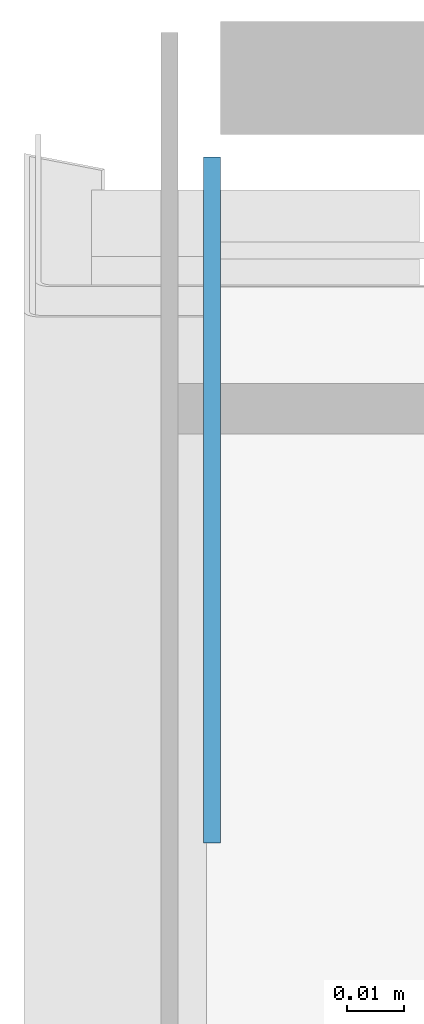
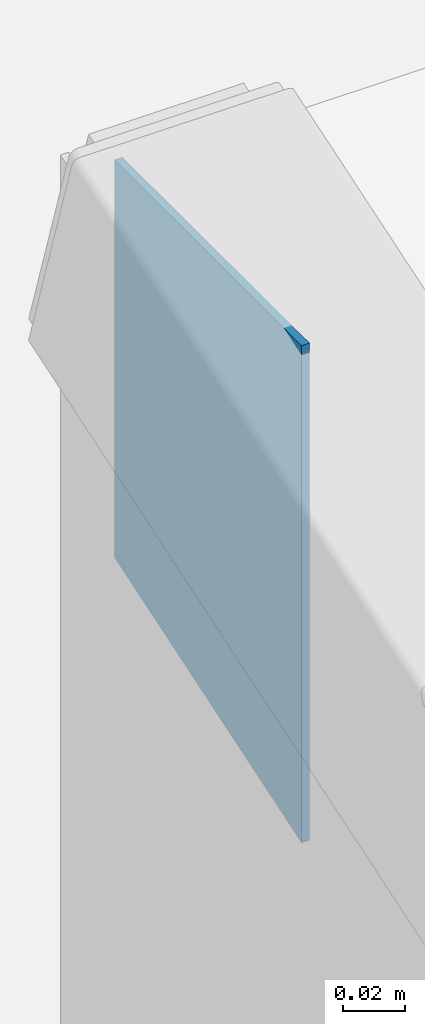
# One storey, part 39 of 66: 1 wall.
"""IFC2X3 building model written with IfcOpenShell, lengths in millimetres."""

from ifc_helpers import new_model, entity, si_unit, converted_unit, derived_unit, direction, frame, frame_2d, origin, place, context, subcontext, project, spatial, rectangle, extrude, clip, halfspace, material, layer, layer_set, layer_usage, type_object, element, save


model = new_model("IFC2X3")

# Units and contexts
model_context = context("Model", 3, precision=0.01, world=origin(), true_north=direction((6.12303176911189e-17, 1.0)))
body_context = subcontext(model_context, "Body", "Model", "MODEL_VIEW")
ifc_project = project(units=[si_unit("LENGTHUNIT", "METRE", prefix="MILLI"), si_unit("AREAUNIT", "SQUARE_METRE"), si_unit("VOLUMEUNIT", "CUBIC_METRE"), converted_unit("PLANEANGLEUNIT", "DEGREE", entity("IfcRatioMeasure", 0.0174532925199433), si_unit("PLANEANGLEUNIT", "RADIAN"), dimensions=[0, 0, 0, 0, 0, 0, 0]), si_unit("MASSUNIT", "GRAM", prefix="KILO"), derived_unit("MASSDENSITYUNIT", [(si_unit("MASSUNIT", "GRAM", prefix="KILO"), 1), (si_unit("LENGTHUNIT", "METRE"), -3)]), derived_unit("MOMENTOFINERTIAUNIT", [(si_unit("LENGTHUNIT", "METRE"), 4)]), si_unit("TIMEUNIT", "SECOND"), si_unit("FREQUENCYUNIT", "HERTZ"), si_unit("THERMODYNAMICTEMPERATUREUNIT", "DEGREE_CELSIUS"), derived_unit("THERMALTRANSMITTANCEUNIT", [(si_unit("MASSUNIT", "GRAM", prefix="KILO"), 1), (si_unit("THERMODYNAMICTEMPERATUREUNIT", "KELVIN"), -1), (si_unit("TIMEUNIT", "SECOND"), -3)]), derived_unit("VOLUMETRICFLOWRATEUNIT", [(si_unit("LENGTHUNIT", "METRE"), 3), (si_unit("TIMEUNIT", "SECOND"), -1)]), si_unit("ELECTRICCURRENTUNIT", "AMPERE"), si_unit("ELECTRICVOLTAGEUNIT", "VOLT"), si_unit("POWERUNIT", "WATT"), si_unit("FORCEUNIT", "NEWTON", prefix="KILO"), si_unit("ILLUMINANCEUNIT", "LUX"), si_unit("LUMINOUSFLUXUNIT", "LUMEN"), si_unit("LUMINOUSINTENSITYUNIT", "CANDELA"), derived_unit("USERDEFINED", [(si_unit("MASSUNIT", "GRAM", prefix="KILO"), -1), (si_unit("LENGTHUNIT", "METRE"), -2), (si_unit("TIMEUNIT", "SECOND"), 3), (si_unit("LUMINOUSFLUXUNIT", "LUMEN"), 1)]), derived_unit("LINEARVELOCITYUNIT", [(si_unit("LENGTHUNIT", "METRE"), 1), (si_unit("TIMEUNIT", "SECOND"), -1)]), si_unit("PRESSUREUNIT", "PASCAL"), derived_unit("USERDEFINED", [(si_unit("LENGTHUNIT", "METRE"), -2), (si_unit("MASSUNIT", "GRAM", prefix="KILO"), 1), (si_unit("TIMEUNIT", "SECOND"), -2)]), derived_unit("LINEARFORCEUNIT", [(si_unit("MASSUNIT", "GRAM", prefix="KILO"), 1), (si_unit("LENGTHUNIT", "METRE"), 1), (si_unit("TIMEUNIT", "SECOND"), -2), (si_unit("LENGTHUNIT", "METRE"), -1)]), derived_unit("PLANARFORCEUNIT", [(si_unit("MASSUNIT", "GRAM", prefix="KILO"), 1), (si_unit("LENGTHUNIT", "METRE"), 1), (si_unit("TIMEUNIT", "SECOND"), -2), (si_unit("LENGTHUNIT", "METRE"), -2)])], contexts=[model_context])

# Site, building, storey
site_placement = place(None, origin())
site = spatial("IfcSite", under=ifc_project, at=site_placement, Name="Default", CompositionType="ELEMENT")
building_placement = place(site_placement, origin())
building = spatial("IfcBuilding", under=site, at=building_placement, Name="-", CompositionType="ELEMENT")
storey_placement = place(building_placement, frame((0.0, 0.0, 3070.0)))
storey = spatial("IfcBuildingStorey", under=building, at=storey_placement, Name="01 eerste verdieping", CompositionType="ELEMENT", Elevation=3070.00000000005)

# Wall
ifc_material = material(Name="h7_zink zwart")
ifc_layer = layer(ifc_material, 3.0)
ifc_layer_set = layer_set([ifc_layer], Name="Basic Wall:NLRS_42_WA_beplating_zijkant hellend dak")
ifc_layer_usage = layer_usage(ifc_layer_set, "AXIS2", "NEGATIVE", 1.5)
wall_type = type_object("IfcWallType", Name="Basic Wall:NLRS_42_WA_beplating_zijkant hellend dak", PredefinedType="STANDARD", material=ifc_layer_set)
wall_placement = place(storey_placement, frame((9516.99178769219, 10442.1240954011, 3364.33589369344), z_axis=(0.0, 0.0, 1.0), x_axis=(0.0, -1.0, 0.0)))
element("IfcWallStandardCase", 1, at=wall_placement, inside=storey, type_object=wall_type, material=ifc_layer_usage, Name="Basic Wall:NLRS_42_WA_beplating_zijkant hellend dak", ObjectType="Basic Wall:NLRS_42_WA_beplating_zijkant hellend dak", context=body_context, shape_type="Clipping", body=[
    clip(extrude(rectangle(XDim=121.274126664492, YDim=2.99999999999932, at=frame_2d((60.6370633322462, 0.0), x_axis=(-1.0, 0.0))), origin(), (0.0, 0.0, 1.0), 196.664106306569), halfspace(frame((121.274126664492, -1.50000000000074, 0.0), z_axis=(-0.309016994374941, 0.0, -0.951056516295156), x_axis=(0.0, 1.0, 0.0)), False)),
])

save(model, "model.ifc")
